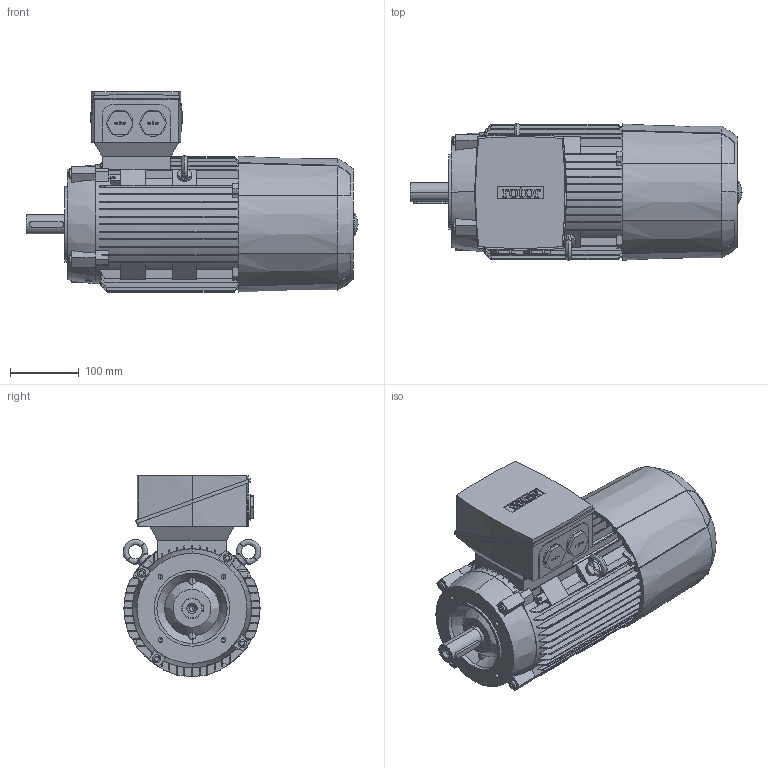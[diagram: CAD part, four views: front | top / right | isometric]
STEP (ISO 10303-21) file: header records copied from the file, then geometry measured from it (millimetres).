
FILE_DESCRIPTION (( 'STEP AP214' ), '1' );
FILE_NAME ('6RN100L04E45 IM3641.STEP', '2017-01-12T13:32:37', ( 'rbc_ict' ), ( 'Microsoft' ), 'SwSTEP 2.0', 'SolidWorks 2015', '' );
FILE_SCHEMA (( 'AUTOMOTIVE_DESIGN' ));
Length unit declared in the file: millimetre
Products named in the file (1): 6RN100L04E45 IM3641
Bounding box: 482.5 x 200.12 x 292 mm (x, y, z)
Volume: 12797631 mm3; surface area: 593406 mm2
Topology: 1 solids, 1 shells, 753 faces, 2080 edges, 1364 vertices
Faces by surface type: plane 421, bspline 156, cylinder 142, cone 34
Entity records: 35795 total; most frequent: CARTESIAN_POINT 10417, ORIENTED_EDGE 4136, DIRECTION 3215, EDGE_CURVE 2068, VERTEX_POINT 1364, VECTOR 1143, LINE 1143, AXIS2_PLACEMENT_3D 1036
